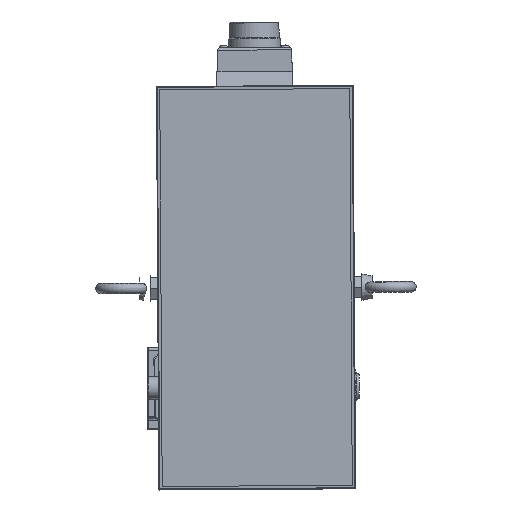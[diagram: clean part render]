
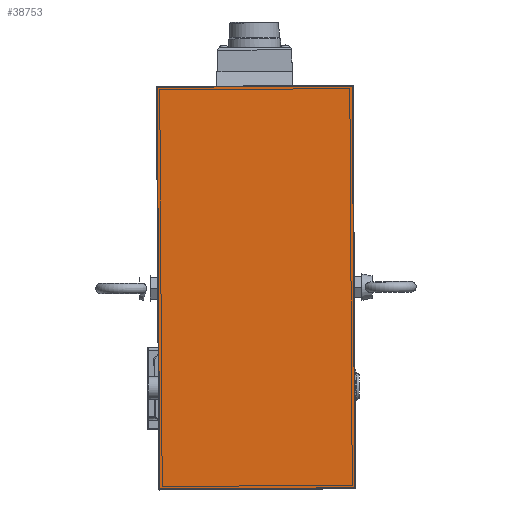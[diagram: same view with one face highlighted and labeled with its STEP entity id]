
A CAD part, top view. The second image highlights one B-rep face of the part: STEP entity #38753.
In plain terms, the highlighted planar face has unit normal (0, 0, 1).
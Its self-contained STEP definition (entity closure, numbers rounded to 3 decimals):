
#1355=PLANE('',#41056);
#4539=FACE_OUTER_BOUND('',#6725,.T.);
#6725=EDGE_LOOP('',(#27058,#27059,#27060,#27061));
#11550=LINE('',#57417,#14414);
#11553=LINE('',#57425,#14417);
#11555=LINE('',#57428,#14419);
#11559=LINE('',#57434,#14423);
#14414=VECTOR('',#45723,10.);
#14417=VECTOR('',#45732,10.);
#14419=VECTOR('',#45736,10.);
#14423=VECTOR('',#45744,10.);
#17351=VERTEX_POINT('',#57392);
#17352=VERTEX_POINT('',#57396);
#17356=VERTEX_POINT('',#57405);
#17358=VERTEX_POINT('',#57410);
#21224=EDGE_CURVE('',#17358,#17356,#11550,.T.);
#21228=EDGE_CURVE('',#17352,#17358,#11553,.T.);
#21230=EDGE_CURVE('',#17356,#17351,#11555,.T.);
#21234=EDGE_CURVE('',#17351,#17352,#11559,.T.);
#27058=ORIENTED_EDGE('',*,*,#21224,.F.);
#27059=ORIENTED_EDGE('',*,*,#21228,.F.);
#27060=ORIENTED_EDGE('',*,*,#21234,.F.);
#27061=ORIENTED_EDGE('',*,*,#21230,.F.);
#38753=ADVANCED_FACE('',(#4539),#1355,.T.);
#41056=AXIS2_PLACEMENT_3D('',#57445,#45759,#45760);
#45723=DIRECTION('',(-0.006,1.,0.));
#45732=DIRECTION('',(-1.,-0.006,0.));
#45736=DIRECTION('',(1.,0.006,0.));
#45744=DIRECTION('',(0.006,-1.,0.));
#45759=DIRECTION('center_axis',(0.,0.,
1.));
#45760=DIRECTION('ref_axis',(0.006,-1.,0.));
#57392=CARTESIAN_POINT('',(57.886,181.858,723.));
#57396=CARTESIAN_POINT('',(59.376,-61.137,723.));
#57405=CARTESIAN_POINT('',(-60.112,181.135,723.));
#57410=CARTESIAN_POINT('',(-58.622,-61.861,723.));
#57417=CARTESIAN_POINT('',(-58.631,-60.361,723.));
#57425=CARTESIAN_POINT('',(29.127,-61.322,723.));
#57428=CARTESIAN_POINT('',(27.636,181.673,723.));
#57434=CARTESIAN_POINT('',(59.367,-59.637,723.));
#57445=CARTESIAN_POINT('Origin',(57.867,-59.646,723.));
